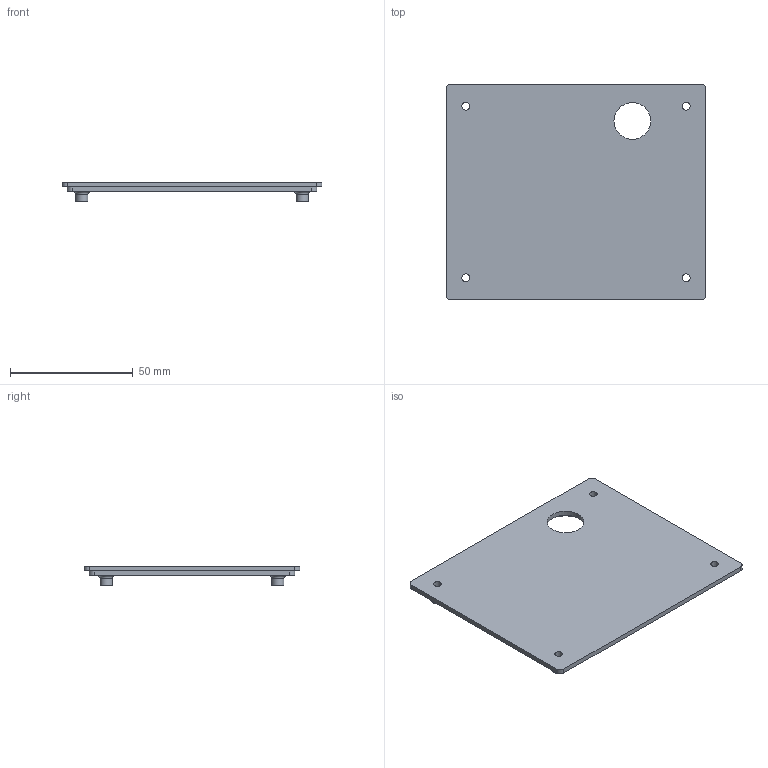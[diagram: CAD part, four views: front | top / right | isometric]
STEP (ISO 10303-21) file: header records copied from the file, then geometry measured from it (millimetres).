
FILE_DESCRIPTION(('FreeCAD Model'),'2;1');
FILE_NAME('Open CASCADE Shape Model','2021-07-31T18:33:59',('Author'),( ''),'Open CASCADE STEP processor 7.4','FreeCAD','Unknown');
FILE_SCHEMA(('AUTOMOTIVE_DESIGN { 1 0 10303 214 1 1 1 1 }'));
Length unit declared in the file: millimetre
Products named in the file (1): SatBoxDeckel
Bounding box: 106 x 88 x 8.1 mm (x, y, z)
Volume: 34798.3 mm3; surface area: 20514.1 mm2
Topology: 1 solids, 1 shells, 38 faces, 86 edges, 56 vertices
Faces by surface type: cylinder 18, plane 16, torus 4
Full cylindrical faces by diameter (mm): 3.2 x4, 5 x4, 15 x1, 20 x1
Entity records: 2277 total; most frequent: CARTESIAN_POINT 435, DIRECTION 363, LINE 174, VECTOR 174, ORIENTED_EDGE 172, PCURVE 172, DEFINITIONAL_REPRESENTATION 172, EDGE_CURVE 86
